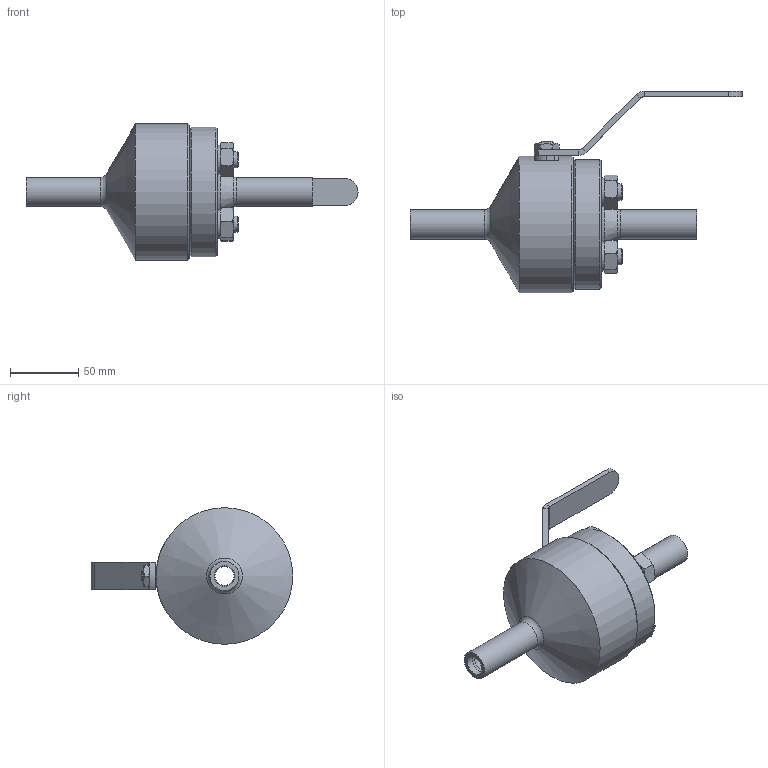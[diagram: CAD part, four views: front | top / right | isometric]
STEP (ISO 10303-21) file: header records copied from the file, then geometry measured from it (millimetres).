
FILE_DESCRIPTION((''),'2;1');
FILE_NAME('C:\Users\Bartek\Desktop\Nowy folder (2)\Nowy folder (22)\WK5bc DN15 PN 100_Substitute_1.stp','2024-09-16T13:41:42',('Bartek'),(''),'Autodesk Inventor 2012','Autodesk Inventor 2012','');
FILE_SCHEMA(('AUTOMOTIVE_DESIGN { 1 0 10303 214 1 1 1 1 }'));
Length unit declared in the file: millimetre
Products named in the file (1): WK5bc DN15 PN 100_Substitute_1
Bounding box: 243 x 147.5 x 100 mm (x, y, z)
Volume: 578993.6 mm3; surface area: 75772.2 mm2
Topology: 1 solids, 1 shells, 184 faces, 407 edges, 243 vertices
Faces by surface type: plane 80, cone 67, cylinder 34, torus 3
Full cylindrical faces by diameter (mm): 12 x4, 14 x1, 14.9 x2, 21 x4, 21.3 x2, 45 x1, 95 x1, 100 x1
Entity records: 4868 total; most frequent: CARTESIAN_POINT 1047, DIRECTION 757, ORIENTED_EDGE 742, EDGE_CURVE 371, AXIS2_PLACEMENT_3D 325, VERTEX_POINT 239, EDGE_LOOP 236, FACE_OUTER_BOUND 184
